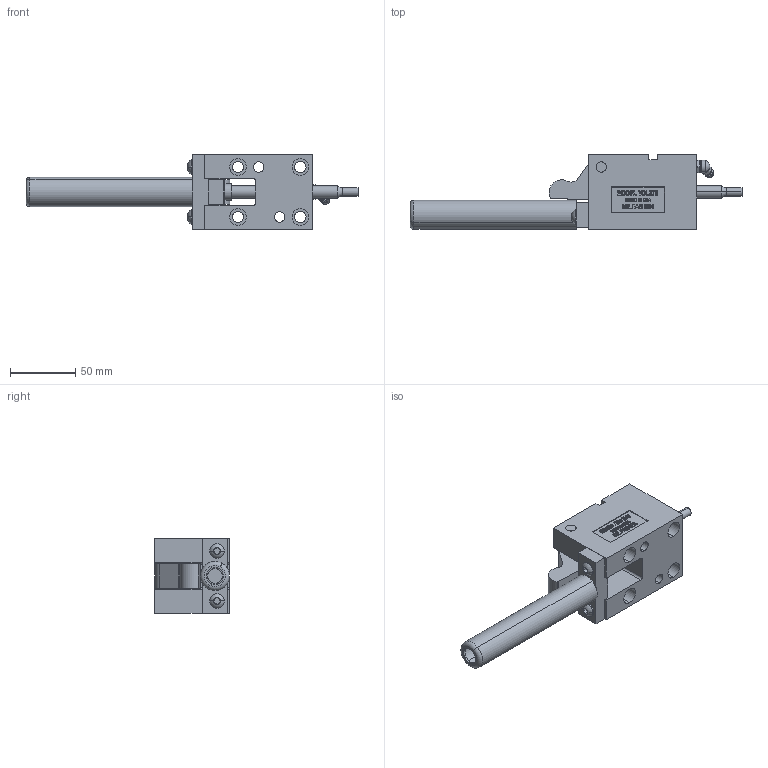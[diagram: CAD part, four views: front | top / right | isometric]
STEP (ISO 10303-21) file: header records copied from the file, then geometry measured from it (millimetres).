
FILE_DESCRIPTION (( 'STEP AP214' ), '1' );
FILE_NAME ('TOL37545-C.STEP', '2014-01-05T22:39:32', ( 'user' ), ( '' ), 'SwSTEP 2.0', 'SolidWorks 2009', '' );
FILE_SCHEMA (( 'AUTOMOTIVE_DESIGN' ));
Length unit declared in the file: inch
Products named in the file (10): OL375-PUNCH; 1-4 SCREW; O-375-POINT; 375 PIVOT PIN; 375-OFFSET TRIGGER; OL375-CAGE; GREASE ZERK; 375-O-STRAP; TOL37545-C; TOL375-BODY
Assembly tree (10 placements, depth 2):
  TOL37545-C
    OL375-PUNCH
    TOL375-BODY
    O-375-POINT
    375-O-STRAP
    375 PIVOT PIN
    1-4 SCREW  x2
    375-OFFSET TRIGGER
    OL375-CAGE
    GREASE ZERK
Bounding box: 253.59 x 57.15 x 57.15 mm (x, y, z)
Volume: 241362.6 mm3; surface area: 73989.6 mm2
Topology: 10 solids, 10 shells, 588 faces, 1520 edges, 1000 vertices
Faces by surface type: plane 346, bspline 96, cylinder 94, cone 26, torus 22, sphere 4
Entity records: 23160 total; most frequent: CARTESIAN_POINT 9416, ORIENTED_EDGE 2952, DIRECTION 2396, EDGE_CURVE 1476, VERTEX_POINT 974, LINE 974, VECTOR 974, AXIS2_PLACEMENT_3D 711
